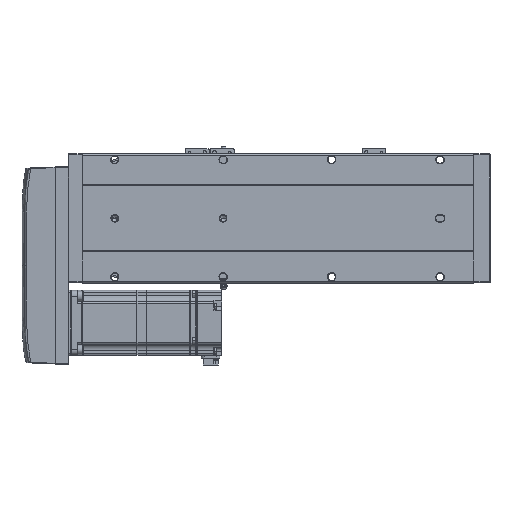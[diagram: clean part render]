
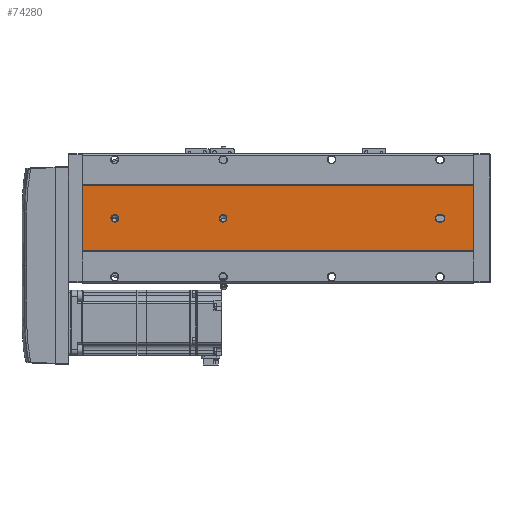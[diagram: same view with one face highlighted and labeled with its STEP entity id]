
A CAD part, front view. The second image highlights one B-rep face of the part: STEP entity #74280.
In plain terms, the highlighted planar face has unit normal (0, -1, 0).
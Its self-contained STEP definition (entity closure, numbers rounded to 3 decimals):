
#1085 = CARTESIAN_POINT ( 'NONE',  ( -69.892, -52.848, 361. ) ) ;
#2169 = ORIENTED_EDGE ( 'NONE', *, *, #64618, .T. ) ;
#2318 = LINE ( 'NONE', #11476, #23437 ) ;
#2894 = CARTESIAN_POINT ( 'NONE',  ( -69.892, -52.848, 361. ) ) ;
#3452 = CARTESIAN_POINT ( 'NONE',  ( -9.892, -52.848, 361. ) ) ;
#3648 = EDGE_LOOP ( 'NONE', ( #42826, #49171 ) ) ;
#4050 = EDGE_CURVE ( 'NONE', #44932, #41502, #31609, .T. ) ;
#4605 = FACE_BOUND ( 'NONE', #3648, .T. ) ;
#5043 = DIRECTION ( 'NONE',  ( 0., 1., 0. ) ) ;
#8196 = ORIENTED_EDGE ( 'NONE', *, *, #33537, .F. ) ;
#8436 = DIRECTION ( 'NONE',  ( 0., 0., 1. ) ) ;
#10834 = CIRCLE ( 'NONE', #32125, 3.5 ) ;
#11397 = VERTEX_POINT ( 'NONE', #14706 ) ;
#11476 = CARTESIAN_POINT ( 'NONE',  ( -36.392, -52.848, 361. ) ) ;
#11630 = VECTOR ( 'NONE', #61754, 1000. ) ;
#12866 = ORIENTED_EDGE ( 'NONE', *, *, #38454, .T. ) ;
#13477 = LINE ( 'NONE', #2894, #11630 ) ;
#13639 = VERTEX_POINT ( 'NONE', #68300 ) ;
#14482 = VERTEX_POINT ( 'NONE', #43391 ) ;
#14706 = CARTESIAN_POINT ( 'NONE',  ( -39.892, -52.848, 327.5 ) ) ;
#15136 = CARTESIAN_POINT ( 'NONE',  ( -39.892, -52.848, 30. ) ) ;
#15796 = CARTESIAN_POINT ( 'NONE',  ( -69.892, -52.848, 361. ) ) ;
#19249 = DIRECTION ( 'NONE',  ( 0., 1., 0. ) ) ;
#19995 = CARTESIAN_POINT ( 'NONE',  ( -39.892, -52.848, 32. ) ) ;
#20244 = AXIS2_PLACEMENT_3D ( 'NONE', #15136, #38044, #56313 ) ;
#21045 = LINE ( 'NONE', #25980, #33984 ) ;
#21222 = ORIENTED_EDGE ( 'NONE', *, *, #31045, .T. ) ;
#21371 = AXIS2_PLACEMENT_3D ( 'NONE', #27047, #68740, #39862 ) ;
#21456 = LINE ( 'NONE', #72864, #59182 ) ;
#23437 = VECTOR ( 'NONE', #53451, 1000. ) ;
#23730 = ORIENTED_EDGE ( 'NONE', *, *, #65107, .T. ) ;
#24146 = EDGE_CURVE ( 'NONE', #27561, #55482, #32501, .T. ) ;
#25980 = CARTESIAN_POINT ( 'NONE',  ( -69.892, -52.848, 0. ) ) ;
#26454 = CARTESIAN_POINT ( 'NONE',  ( -39.892, -52.848, 227.5 ) ) ;
#27047 = CARTESIAN_POINT ( 'NONE',  ( -39.892, -52.848, 30. ) ) ;
#27561 = VERTEX_POINT ( 'NONE', #1085 ) ;
#28414 = PLANE ( 'NONE',  #30783 ) ;
#28769 = VERTEX_POINT ( 'NONE', #70036 ) ;
#29576 = DIRECTION ( 'NONE',  ( 0., 1., 0. ) ) ;
#30783 = AXIS2_PLACEMENT_3D ( 'NONE', #15796, #5043, #52085 ) ;
#31045 = EDGE_CURVE ( 'NONE', #14482, #11397, #33365, .T. ) ;
#31534 = CIRCLE ( 'NONE', #56688, 3.5 ) ;
#31609 = LINE ( 'NONE', #63006, #48132 ) ;
#32125 = AXIS2_PLACEMENT_3D ( 'NONE', #59250, #60251, #53380 ) ;
#32392 = ORIENTED_EDGE ( 'NONE', *, *, #66878, .T. ) ;
#32403 = CIRCLE ( 'NONE', #50357, 3.5 ) ;
#32490 = AXIS2_PLACEMENT_3D ( 'NONE', #37758, #43619, #8436 ) ;
#32501 = LINE ( 'NONE', #42729, #69341 ) ;
#33177 = CARTESIAN_POINT ( 'NONE',  ( -43.392, -52.848, 32. ) ) ;
#33365 = CIRCLE ( 'NONE', #32490, 3.5 ) ;
#33489 = ORIENTED_EDGE ( 'NONE', *, *, #4050, .F. ) ;
#33537 = EDGE_CURVE ( 'NONE', #27561, #44932, #13477, .T. ) ;
#33923 = CARTESIAN_POINT ( 'NONE',  ( -39.892, -52.848, 231. ) ) ;
#33926 = CIRCLE ( 'NONE', #76082, 3.5 ) ;
#33984 = VECTOR ( 'NONE', #50173, 1000. ) ;
#37758 = CARTESIAN_POINT ( 'NONE',  ( -39.892, -52.848, 331. ) ) ;
#37967 = ORIENTED_EDGE ( 'NONE', *, *, #56986, .T. ) ;
#38044 = DIRECTION ( 'NONE',  ( 0., 1., 0. ) ) ;
#38454 = EDGE_CURVE ( 'NONE', #55482, #41502, #21045, .T. ) ;
#38812 = CIRCLE ( 'NONE', #21371, 3.5 ) ;
#39296 = DIRECTION ( 'NONE',  ( 0., 0., -1. ) ) ;
#39588 = VERTEX_POINT ( 'NONE', #44789 ) ;
#39795 = DIRECTION ( 'NONE',  ( 0., 1., 0. ) ) ;
#39862 = DIRECTION ( 'NONE',  ( 0., 0., 1. ) ) ;
#40151 = ORIENTED_EDGE ( 'NONE', *, *, #43227, .T. ) ;
#40695 = CARTESIAN_POINT ( 'NONE',  ( -36.392, -52.848, 30. ) ) ;
#41502 = VERTEX_POINT ( 'NONE', #72827 ) ;
#42729 = CARTESIAN_POINT ( 'NONE',  ( -69.892, -52.848, 361. ) ) ;
#42826 = ORIENTED_EDGE ( 'NONE', *, *, #65312, .T. ) ;
#42973 = DIRECTION ( 'NONE',  ( 0., 0., -1. ) ) ;
#43227 = EDGE_CURVE ( 'NONE', #48031, #39588, #38812, .T. ) ;
#43391 = CARTESIAN_POINT ( 'NONE',  ( -39.892, -52.848, 334.5 ) ) ;
#43619 = DIRECTION ( 'NONE',  ( 0., 1., 0. ) ) ;
#44482 = EDGE_LOOP ( 'NONE', ( #37967, #21222 ) ) ;
#44789 = CARTESIAN_POINT ( 'NONE',  ( -39.892, -52.848, 26.5 ) ) ;
#44932 = VERTEX_POINT ( 'NONE', #3452 ) ;
#45931 = VERTEX_POINT ( 'NONE', #58566 ) ;
#45980 = ORIENTED_EDGE ( 'NONE', *, *, #24146, .T. ) ;
#48031 = VERTEX_POINT ( 'NONE', #40695 ) ;
#48132 = VECTOR ( 'NONE', #39296, 1000. ) ;
#48691 = FACE_BOUND ( 'NONE', #58877, .T. ) ;
#49171 = ORIENTED_EDGE ( 'NONE', *, *, #70696, .T. ) ;
#50173 = DIRECTION ( 'NONE',  ( 1., 0., 0. ) ) ;
#50357 = AXIS2_PLACEMENT_3D ( 'NONE', #33923, #39795, #56562 ) ;
#52085 = DIRECTION ( 'NONE',  ( 0., 0., 1. ) ) ;
#53380 = DIRECTION ( 'NONE',  ( 0., 0., 1. ) ) ;
#53451 = DIRECTION ( 'NONE',  ( 0., 0., -1. ) ) ;
#54636 = EDGE_CURVE ( 'NONE', #28769, #48031, #2318, .T. ) ;
#54730 = ORIENTED_EDGE ( 'NONE', *, *, #54636, .T. ) ;
#55482 = VERTEX_POINT ( 'NONE', #62761 ) ;
#56313 = DIRECTION ( 'NONE',  ( 0., 0., 1. ) ) ;
#56562 = DIRECTION ( 'NONE',  ( 0., 0., 1. ) ) ;
#56688 = AXIS2_PLACEMENT_3D ( 'NONE', #64819, #29576, #70733 ) ;
#56986 = EDGE_CURVE ( 'NONE', #11397, #14482, #10834, .T. ) ;
#58566 = CARTESIAN_POINT ( 'NONE',  ( -43.392, -52.848, 30. ) ) ;
#58877 = EDGE_LOOP ( 'NONE', ( #54730, #40151, #23730, #2169, #32392 ) ) ;
#59182 = VECTOR ( 'NONE', #67478, 1000. ) ;
#59250 = CARTESIAN_POINT ( 'NONE',  ( -39.892, -52.848, 331. ) ) ;
#59781 = FACE_OUTER_BOUND ( 'NONE', #71904, .T. ) ;
#60251 = DIRECTION ( 'NONE',  ( 0., 1., 0. ) ) ;
#61754 = DIRECTION ( 'NONE',  ( 1., 0., 0. ) ) ;
#62761 = CARTESIAN_POINT ( 'NONE',  ( -69.892, -52.848, 0. ) ) ;
#63006 = CARTESIAN_POINT ( 'NONE',  ( -9.892, -52.848, 361. ) ) ;
#64618 = EDGE_CURVE ( 'NONE', #45931, #65276, #21456, .T. ) ;
#64819 = CARTESIAN_POINT ( 'NONE',  ( -39.892, -52.848, 231. ) ) ;
#65107 = EDGE_CURVE ( 'NONE', #39588, #45931, #70131, .T. ) ;
#65276 = VERTEX_POINT ( 'NONE', #33177 ) ;
#65312 = EDGE_CURVE ( 'NONE', #73502, #13639, #32403, .T. ) ;
#65847 = DIRECTION ( 'NONE',  ( 0., 0., 1. ) ) ;
#66878 = EDGE_CURVE ( 'NONE', #65276, #28769, #33926, .T. ) ;
#67158 = FACE_BOUND ( 'NONE', #44482, .T. ) ;
#67478 = DIRECTION ( 'NONE',  ( 0., 0., 1. ) ) ;
#68300 = CARTESIAN_POINT ( 'NONE',  ( -39.892, -52.848, 234.5 ) ) ;
#68740 = DIRECTION ( 'NONE',  ( 0., 1., 0. ) ) ;
#69341 = VECTOR ( 'NONE', #42973, 1000. ) ;
#70036 = CARTESIAN_POINT ( 'NONE',  ( -36.392, -52.848, 32. ) ) ;
#70131 = CIRCLE ( 'NONE', #20244, 3.5 ) ;
#70696 = EDGE_CURVE ( 'NONE', #13639, #73502, #31534, .T. ) ;
#70733 = DIRECTION ( 'NONE',  ( 0., 0., 1. ) ) ;
#71904 = EDGE_LOOP ( 'NONE', ( #12866, #33489, #8196, #45980 ) ) ;
#72827 = CARTESIAN_POINT ( 'NONE',  ( -9.892, -52.848, 0. ) ) ;
#72864 = CARTESIAN_POINT ( 'NONE',  ( -43.392, -52.848, 361. ) ) ;
#73502 = VERTEX_POINT ( 'NONE', #26454 ) ;
#74280 = ADVANCED_FACE ( 'NONE', ( #48691, #4605, #67158, #59781 ), #28414, .F. ) ;
#76082 = AXIS2_PLACEMENT_3D ( 'NONE', #19995, #19249, #65847 ) ;
